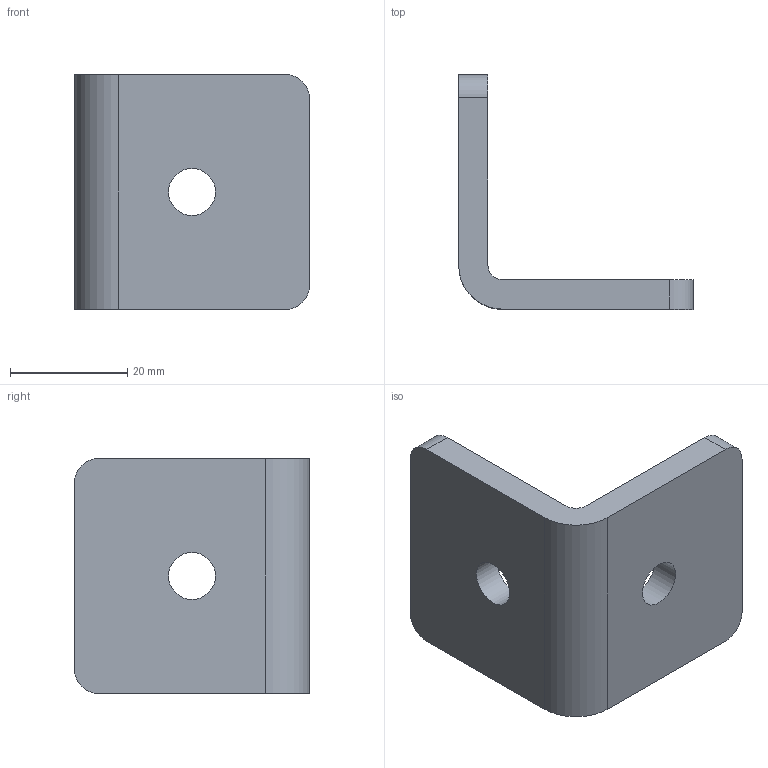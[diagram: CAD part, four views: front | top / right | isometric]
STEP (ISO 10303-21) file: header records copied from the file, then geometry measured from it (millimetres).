
FILE_DESCRIPTION( ( 'STEP AP203' ), '1' );
FILE_NAME( 'C:/Temp/Ganter_Step_05_03_2020/data/3_7/gn_967/gn_967_2/gn_967_2_l/Angle piece GN 967-40-40-L-2-SW.stp', '2020-03-12T14:48:26', ( 'License CC BY-ND 4.0' ), ( 'CADENAS' ), ' ', 'PARTsolutions', ' ' );
FILE_SCHEMA( ( 'CONFIG_CONTROL_DESIGN' ) );
Length unit declared in the file: millimetre
Products named in the file (1): _Angle piece GN 967-40-40-L-2-SW
Bounding box: 40 x 40 x 40 mm (x, y, z)
Volume: 13999.5 mm3; surface area: 6945.3 mm2
Topology: 1 solids, 1 shells, 16 faces, 42 edges, 28 vertices
Faces by surface type: cylinder 8, plane 8
Full cylindrical faces by diameter (mm): 8 x2
Entity records: 544 total; most frequent: DIRECTION 90, CARTESIAN_POINT 85, ORIENTED_EDGE 80, EDGE_CURVE 40, AXIS2_PLACEMENT_3D 33, VERTEX_POINT 28, LINE 24, VECTOR 24
